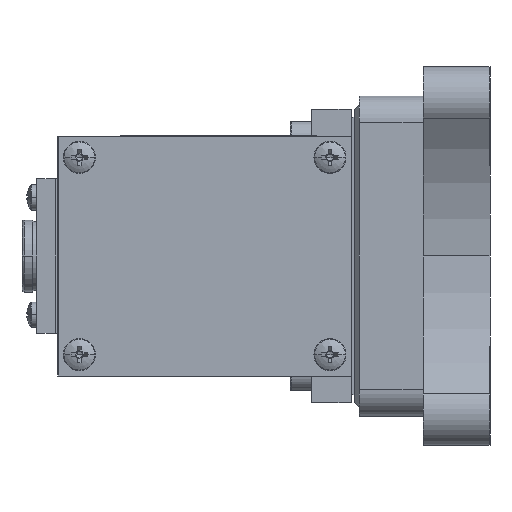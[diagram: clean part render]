
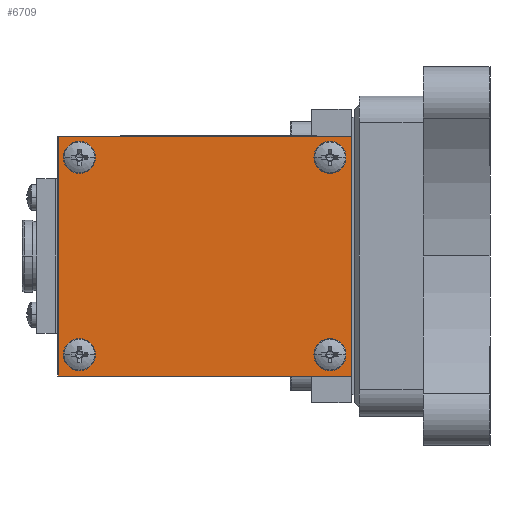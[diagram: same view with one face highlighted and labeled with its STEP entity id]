
A CAD part, left-side view. The second image highlights one B-rep face of the part: STEP entity #6709.
In plain terms, the highlighted planar face has unit normal (-1, 0, 0).
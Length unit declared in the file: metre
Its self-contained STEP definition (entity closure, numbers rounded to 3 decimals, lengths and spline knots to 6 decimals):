
#851 = AXIS2_PLACEMENT_3D ( 'NONE', #16690, #16752, #16765 ) ;
#893 = ORIENTED_EDGE ( 'NONE', *, *, #5967, .F. ) ;
#1486 = CARTESIAN_POINT ( 'NONE',  ( -0.0978, 0.009, 0.037 ) ) ;
#1525 = DIRECTION ( 'NONE',  ( -1., 0., 0. ) ) ;
#1537 = DIRECTION ( 'NONE',  ( 0., 0., 1. ) ) ;
#1762 = LINE ( 'NONE', #2415, #11763 ) ;
#1905 = VERTEX_POINT ( 'NONE', #5040 ) ;
#2053 = CARTESIAN_POINT ( 'NONE',  ( -0.0978, 0.009, -0.04 ) ) ;
#2079 = FACE_OUTER_BOUND ( 'NONE', #9100, .T. ) ;
#2158 = ORIENTED_EDGE ( 'NONE', *, *, #6714, .F. ) ;
#2390 = LINE ( 'NONE', #2820, #9359 ) ;
#2415 = CARTESIAN_POINT ( 'NONE',  ( -0.0978, 0.111, 0. ) ) ;
#2820 = CARTESIAN_POINT ( 'NONE',  ( -0.0978, 0.056, -0.045 ) ) ;
#2823 = DIRECTION ( 'NONE',  ( 0., 0., 1. ) ) ;
#2951 = ORIENTED_EDGE ( 'NONE', *, *, #12073, .F. ) ;
#2976 = EDGE_LOOP ( 'NONE', ( #3129, #5690 ) ) ;
#2986 = DIRECTION ( 'NONE',  ( 0., 1., 0. ) ) ;
#3069 = LINE ( 'NONE', #14921, #10005 ) ;
#3129 = ORIENTED_EDGE ( 'NONE', *, *, #10262, .F. ) ;
#3424 = CIRCLE ( 'NONE', #15912, 0.003 ) ;
#3533 = CIRCLE ( 'NONE', #851, 0.003 ) ;
#4299 = VECTOR ( 'NONE', #5616, 1. ) ;
#4890 = EDGE_CURVE ( 'NONE', #13411, #10024, #16624, .T. ) ;
#5040 = CARTESIAN_POINT ( 'NONE',  ( -0.0978, 0.111, -0.045 ) ) ;
#5231 = EDGE_LOOP ( 'NONE', ( #2951, #5946 ) ) ;
#5317 = VERTEX_POINT ( 'NONE', #12849 ) ;
#5560 = CARTESIAN_POINT ( 'NONE',  ( -0.0978, 0.056, 0.045 ) ) ;
#5570 = FACE_BOUND ( 'NONE', #2976, .T. ) ;
#5616 = DIRECTION ( 'NONE',  ( 0., -1., 0. ) ) ;
#5690 = ORIENTED_EDGE ( 'NONE', *, *, #7790, .F. ) ;
#5807 = ORIENTED_EDGE ( 'NONE', *, *, #4890, .F. ) ;
#5946 = ORIENTED_EDGE ( 'NONE', *, *, #9013, .F. ) ;
#5964 = FACE_BOUND ( 'NONE', #11318, .T. ) ;
#5967 = EDGE_CURVE ( 'NONE', #10024, #13411, #9866, .T. ) ;
#6305 = EDGE_CURVE ( 'NONE', #16507, #5317, #3533, .T. ) ;
#6709 = ADVANCED_FACE ( 'NONE', ( #12885, #15962, #5964, #5570, #2079 ), #14800, .F. ) ;
#6714 = EDGE_CURVE ( 'NONE', #5317, #16507, #8604, .T. ) ;
#6772 = ORIENTED_EDGE ( 'NONE', *, *, #11022, .F. ) ;
#7104 = AXIS2_PLACEMENT_3D ( 'NONE', #1486, #1525, #1537 ) ;
#7143 = DIRECTION ( 'NONE',  ( 0., 0., -1. ) ) ;
#7535 = DIRECTION ( 'NONE',  ( 0., 0., 1. ) ) ;
#7569 = DIRECTION ( 'NONE',  ( -1., 0., 0. ) ) ;
#7589 = CARTESIAN_POINT ( 'NONE',  ( -0.0978, 0.103, 0.037 ) ) ;
#7766 = LINE ( 'NONE', #5560, #4299 ) ;
#7790 = EDGE_CURVE ( 'NONE', #15488, #11882, #15301, .T. ) ;
#7904 = CIRCLE ( 'NONE', #11339, 0.003 ) ;
#8078 = CARTESIAN_POINT ( 'NONE',  ( -0.0978, 0.103, -0.037 ) ) ;
#8108 = DIRECTION ( 'NONE',  ( -1., 0., 0. ) ) ;
#8119 = EDGE_CURVE ( 'NONE', #13487, #13095, #7766, .T. ) ;
#8129 = DIRECTION ( 'NONE',  ( 0., 0., 1. ) ) ;
#8430 = CARTESIAN_POINT ( 'NONE',  ( -0.0978, 0.103, -0.037 ) ) ;
#8451 = DIRECTION ( 'NONE',  ( -1., 0., 0. ) ) ;
#8465 = DIRECTION ( 'NONE',  ( 0., 0., 1. ) ) ;
#8604 = CIRCLE ( 'NONE', #10159, 0.003 ) ;
#8696 = CARTESIAN_POINT ( 'NONE',  ( -0.0978, 0.103, -0.04 ) ) ;
#9013 = EDGE_CURVE ( 'NONE', #15356, #14343, #16113, .T. ) ;
#9070 = CARTESIAN_POINT ( 'NONE',  ( -0.0978, 0.009, 0.037 ) ) ;
#9100 = EDGE_LOOP ( 'NONE', ( #14802, #16090, #6772, #14534 ) ) ;
#9121 = DIRECTION ( 'NONE',  ( -1., 0., 0. ) ) ;
#9178 = DIRECTION ( 'NONE',  ( 0., 0., 1. ) ) ;
#9359 = VECTOR ( 'NONE', #2986, 1. ) ;
#9866 = CIRCLE ( 'NONE', #15486, 0.003 ) ;
#10005 = VECTOR ( 'NONE', #7143, 1. ) ;
#10024 = VERTEX_POINT ( 'NONE', #8696 ) ;
#10159 = AXIS2_PLACEMENT_3D ( 'NONE', #16010, #16121, #16431 ) ;
#10262 = EDGE_CURVE ( 'NONE', #11882, #15488, #3424, .T. ) ;
#10304 = ORIENTED_EDGE ( 'NONE', *, *, #6305, .F. ) ;
#10431 = CARTESIAN_POINT ( 'NONE',  ( -0.0978, 0.001, -0.045 ) ) ;
#10529 = CARTESIAN_POINT ( 'NONE',  ( -0.0978, 0.103, -0.034 ) ) ;
#10769 = CARTESIAN_POINT ( 'NONE',  ( -0.0978, 0.103, 0.034 ) ) ;
#10983 = CARTESIAN_POINT ( 'NONE',  ( -0.0978, 0.001, 0.045 ) ) ;
#11014 = AXIS2_PLACEMENT_3D ( 'NONE', #14162, #15478, #15629 ) ;
#11022 = EDGE_CURVE ( 'NONE', #1905, #13487, #1762, .T. ) ;
#11125 = EDGE_LOOP ( 'NONE', ( #5807, #893 ) ) ;
#11318 = EDGE_LOOP ( 'NONE', ( #2158, #10304 ) ) ;
#11339 = AXIS2_PLACEMENT_3D ( 'NONE', #7589, #7569, #7535 ) ;
#11365 = AXIS2_PLACEMENT_3D ( 'NONE', #14423, #14588, #15038 ) ;
#11763 = VECTOR ( 'NONE', #2823, 1. ) ;
#11832 = CARTESIAN_POINT ( 'NONE',  ( -0.0978, 0.111, 0.045 ) ) ;
#11882 = VERTEX_POINT ( 'NONE', #14979 ) ;
#12073 = EDGE_CURVE ( 'NONE', #14343, #15356, #7904, .T. ) ;
#12309 = CARTESIAN_POINT ( 'NONE',  ( -0.0978, 0.009, 0.034 ) ) ;
#12499 = EDGE_CURVE ( 'NONE', #13095, #16750, #3069, .T. ) ;
#12849 = CARTESIAN_POINT ( 'NONE',  ( -0.0978, 0.009, -0.034 ) ) ;
#12885 = FACE_BOUND ( 'NONE', #11125, .T. ) ;
#13095 = VERTEX_POINT ( 'NONE', #10983 ) ;
#13411 = VERTEX_POINT ( 'NONE', #10529 ) ;
#13487 = VERTEX_POINT ( 'NONE', #11832 ) ;
#13825 = AXIS2_PLACEMENT_3D ( 'NONE', #8430, #8451, #8465 ) ;
#14162 = CARTESIAN_POINT ( 'NONE',  ( -0.0978, 0.001, 0.045 ) ) ;
#14255 = EDGE_CURVE ( 'NONE', #16750, #1905, #2390, .T. ) ;
#14343 = VERTEX_POINT ( 'NONE', #16097 ) ;
#14423 = CARTESIAN_POINT ( 'NONE',  ( -0.0978, 0.103, 0.037 ) ) ;
#14534 = ORIENTED_EDGE ( 'NONE', *, *, #14255, .F. ) ;
#14588 = DIRECTION ( 'NONE',  ( -1., 0., 0. ) ) ;
#14800 = PLANE ( 'NONE',  #11014 ) ;
#14802 = ORIENTED_EDGE ( 'NONE', *, *, #12499, .F. ) ;
#14921 = CARTESIAN_POINT ( 'NONE',  ( -0.0978, 0.001, 0. ) ) ;
#14979 = CARTESIAN_POINT ( 'NONE',  ( -0.0978, 0.009, 0.04 ) ) ;
#15038 = DIRECTION ( 'NONE',  ( 0., 0., 1. ) ) ;
#15301 = CIRCLE ( 'NONE', #7104, 0.003 ) ;
#15356 = VERTEX_POINT ( 'NONE', #10769 ) ;
#15478 = DIRECTION ( 'NONE',  ( 1., 0., 0. ) ) ;
#15486 = AXIS2_PLACEMENT_3D ( 'NONE', #8078, #8108, #8129 ) ;
#15488 = VERTEX_POINT ( 'NONE', #12309 ) ;
#15629 = DIRECTION ( 'NONE',  ( 0., 0., -1. ) ) ;
#15912 = AXIS2_PLACEMENT_3D ( 'NONE', #9070, #9121, #9178 ) ;
#15962 = FACE_BOUND ( 'NONE', #5231, .T. ) ;
#16010 = CARTESIAN_POINT ( 'NONE',  ( -0.0978, 0.009, -0.037 ) ) ;
#16090 = ORIENTED_EDGE ( 'NONE', *, *, #8119, .F. ) ;
#16097 = CARTESIAN_POINT ( 'NONE',  ( -0.0978, 0.103, 0.04 ) ) ;
#16113 = CIRCLE ( 'NONE', #11365, 0.003 ) ;
#16121 = DIRECTION ( 'NONE',  ( -1., 0., 0. ) ) ;
#16431 = DIRECTION ( 'NONE',  ( 0., 0., 1. ) ) ;
#16507 = VERTEX_POINT ( 'NONE', #2053 ) ;
#16624 = CIRCLE ( 'NONE', #13825, 0.003 ) ;
#16690 = CARTESIAN_POINT ( 'NONE',  ( -0.0978, 0.009, -0.037 ) ) ;
#16750 = VERTEX_POINT ( 'NONE', #10431 ) ;
#16752 = DIRECTION ( 'NONE',  ( -1., 0., 0. ) ) ;
#16765 = DIRECTION ( 'NONE',  ( 0., 0., 1. ) ) ;
